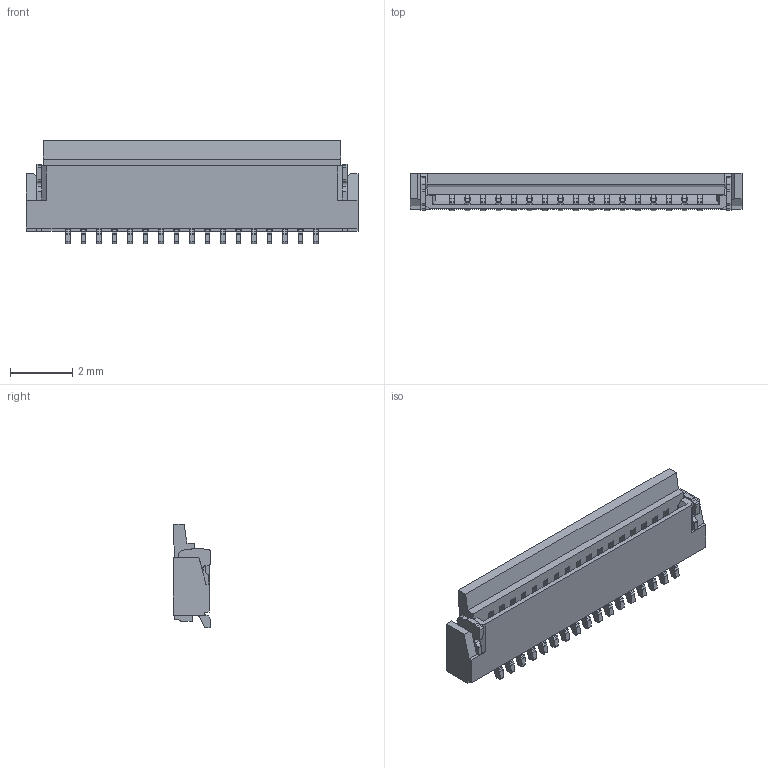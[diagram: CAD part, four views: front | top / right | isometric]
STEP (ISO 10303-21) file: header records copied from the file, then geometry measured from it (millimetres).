
FILE_DESCRIPTION((''),'2;1');
FILE_NAME('S-51536-020XX-XXX','2012-06-15T',('12114032'),(''),'PRO/ENGINEER BY PARAMETRIC TECHNOLOGY CORPORATION, 2009360','PRO/ENGINEER BY PARAMETRIC TECHNOLOGY CORPORATION, 2009360','');
FILE_SCHEMA(('CONFIG_CONTROL_DESIGN'));
Length unit declared in the file: millimetre
Products named in the file (1): S-51536-020XX-XXX
Bounding box: 10.7 x 1.2 x 3.32 mm (x, y, z)
Volume: 20 mm3; surface area: 213.8 mm2
Topology: 1 solids, 1 shells, 1486 faces, 4801 edges, 3150 vertices
Faces by surface type: plane 976, cylinder 510
Entity records: 53181 total; most frequent: ORIENTED_EDGE 9602, CARTESIAN_POINT 9601, DIRECTION 8927, EDGE_CURVE 4801, VECTOR 3607, LINE 3607, VERTEX_POINT 3150, AXIS2_PLACEMENT_3D 2660
